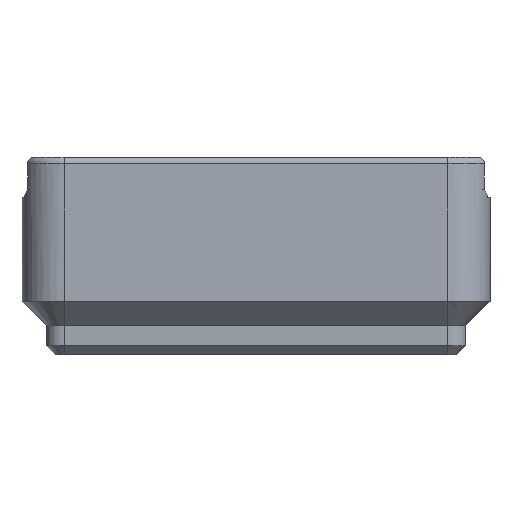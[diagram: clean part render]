
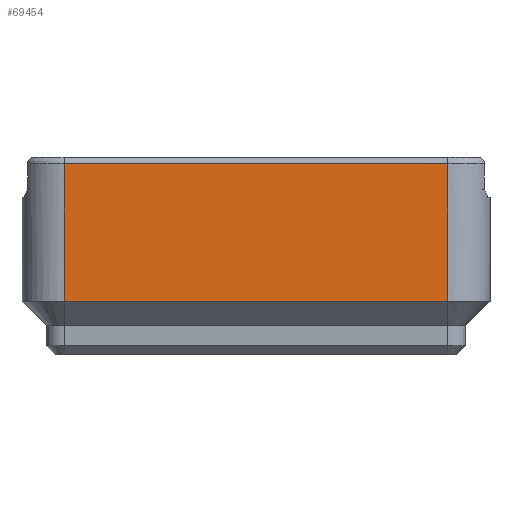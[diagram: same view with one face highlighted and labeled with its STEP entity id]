
A CAD part, left-side view. The second image highlights one B-rep face of the part: STEP entity #69454.
In plain terms, the highlighted planar face has unit normal (-1, 0, 0).
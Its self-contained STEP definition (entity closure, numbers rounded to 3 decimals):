
#1014 = CYLINDRICAL_SURFACE('',#1015,3.75);
#1015 = AXIS2_PLACEMENT_3D('',#1016,#1017,#1018);
#1016 = CARTESIAN_POINT('',(-38.,-17.,2.6));
#1017 = DIRECTION('',(0.,0.,-1.));
#1018 = DIRECTION('',(-1.,0.,0.));
#24637 = EDGE_CURVE('',#24638,#24640,#24642,.T.);
#24638 = VERTEX_POINT('',#24639);
#24639 = CARTESIAN_POINT('',(-41.75,-17.,4.75));
#24640 = VERTEX_POINT('',#24641);
#24641 = CARTESIAN_POINT('',(-41.75,-17.,16.951));
#24642 = SURFACE_CURVE('',#24643,(#24647,#24654),.PCURVE_S1.);
#24643 = LINE('',#24644,#24645);
#24644 = CARTESIAN_POINT('',(-41.75,-17.,4.75));
#24645 = VECTOR('',#24646,1.);
#24646 = DIRECTION('',(0.,0.,1.));
#24647 = PCURVE('',#1014,#24648);
#24648 = DEFINITIONAL_REPRESENTATION('',(#24649),#24653);
#24649 = LINE('',#24650,#24651);
#24650 = CARTESIAN_POINT('',(6.283,-2.15));
#24651 = VECTOR('',#24652,1.);
#24652 = DIRECTION('',(0.,-1.));
#24653 = ( GEOMETRIC_REPRESENTATION_CONTEXT(2) 
PARAMETRIC_REPRESENTATION_CONTEXT() REPRESENTATION_CONTEXT('2D SPACE',''
  ) );
#24654 = PCURVE('',#24655,#24660);
#24655 = PLANE('',#24656);
#24656 = AXIS2_PLACEMENT_3D('',#24657,#24658,#24659);
#24657 = CARTESIAN_POINT('',(-41.75,-17.,2.6));
#24658 = DIRECTION('',(-1.,0.,0.));
#24659 = DIRECTION('',(0.,1.,0.));
#24660 = DEFINITIONAL_REPRESENTATION('',(#24661),#24665);
#24661 = LINE('',#24662,#24663);
#24662 = CARTESIAN_POINT('',(0.,-2.15));
#24663 = VECTOR('',#24664,1.);
#24664 = DIRECTION('',(0.,-1.));
#24665 = ( GEOMETRIC_REPRESENTATION_CONTEXT(2) 
PARAMETRIC_REPRESENTATION_CONTEXT() REPRESENTATION_CONTEXT('2D SPACE',''
  ) );
#67327 = CYLINDRICAL_SURFACE('',#67328,3.75);
#67328 = AXIS2_PLACEMENT_3D('',#67329,#67330,#67331);
#67329 = CARTESIAN_POINT('',(-38.,17.,2.6));
#67330 = DIRECTION('',(0.,0.,-1.));
#67331 = DIRECTION('',(-1.,0.,0.));
#69341 = PLANE('',#69342);
#69342 = AXIS2_PLACEMENT_3D('',#69343,#69344,#69345);
#69343 = CARTESIAN_POINT('',(-40.675,-17.,3.675));
#69344 = DIRECTION('',(0.707,0.,0.707
    ));
#69345 = DIRECTION('',(0.,-1.,0.));
#69454 = ADVANCED_FACE('',(#69455),#24655,.T.);
#69455 = FACE_BOUND('',#69456,.T.);
#69456 = EDGE_LOOP('',(#69457,#69458,#69486,#69509));
#69457 = ORIENTED_EDGE('',*,*,#24637,.T.);
#69458 = ORIENTED_EDGE('',*,*,#69459,.F.);
#69459 = EDGE_CURVE('',#69460,#24640,#69462,.T.);
#69460 = VERTEX_POINT('',#69461);
#69461 = CARTESIAN_POINT('',(-41.75,17.,16.951));
#69462 = SURFACE_CURVE('',#69463,(#69467,#69474),.PCURVE_S1.);
#69463 = LINE('',#69464,#69465);
#69464 = CARTESIAN_POINT('',(-41.75,17.,16.951));
#69465 = VECTOR('',#69466,1.);
#69466 = DIRECTION('',(-0.,-1.,-0.));
#69467 = PCURVE('',#24655,#69468);
#69468 = DEFINITIONAL_REPRESENTATION('',(#69469),#69473);
#69469 = LINE('',#69470,#69471);
#69470 = CARTESIAN_POINT('',(34.,-14.351));
#69471 = VECTOR('',#69472,1.);
#69472 = DIRECTION('',(-1.,0.));
#69473 = ( GEOMETRIC_REPRESENTATION_CONTEXT(2) 
PARAMETRIC_REPRESENTATION_CONTEXT() REPRESENTATION_CONTEXT('2D SPACE',''
  ) );
#69474 = PCURVE('',#69475,#69480);
#69475 = CYLINDRICAL_SURFACE('',#69476,0.6);
#69476 = AXIS2_PLACEMENT_3D('',#69477,#69478,#69479);
#69477 = CARTESIAN_POINT('',(-41.15,17.,16.951));
#69478 = DIRECTION('',(-0.,-1.,-0.));
#69479 = DIRECTION('',(-1.,0.,0.));
#69480 = DEFINITIONAL_REPRESENTATION('',(#69481),#69485);
#69481 = LINE('',#69482,#69483);
#69482 = CARTESIAN_POINT('',(-0.,0.));
#69483 = VECTOR('',#69484,1.);
#69484 = DIRECTION('',(-0.,1.));
#69485 = ( GEOMETRIC_REPRESENTATION_CONTEXT(2) 
PARAMETRIC_REPRESENTATION_CONTEXT() REPRESENTATION_CONTEXT('2D SPACE',''
  ) );
#69486 = ORIENTED_EDGE('',*,*,#69487,.T.);
#69487 = EDGE_CURVE('',#69460,#69488,#69490,.T.);
#69488 = VERTEX_POINT('',#69489);
#69489 = CARTESIAN_POINT('',(-41.75,17.,4.75));
#69490 = SURFACE_CURVE('',#69491,(#69495,#69502),.PCURVE_S1.);
#69491 = LINE('',#69492,#69493);
#69492 = CARTESIAN_POINT('',(-41.75,17.,18.4));
#69493 = VECTOR('',#69494,1.);
#69494 = DIRECTION('',(0.,0.,-1.));
#69495 = PCURVE('',#24655,#69496);
#69496 = DEFINITIONAL_REPRESENTATION('',(#69497),#69501);
#69497 = LINE('',#69498,#69499);
#69498 = CARTESIAN_POINT('',(34.,-15.8));
#69499 = VECTOR('',#69500,1.);
#69500 = DIRECTION('',(0.,1.));
#69501 = ( GEOMETRIC_REPRESENTATION_CONTEXT(2) 
PARAMETRIC_REPRESENTATION_CONTEXT() REPRESENTATION_CONTEXT('2D SPACE',''
  ) );
#69502 = PCURVE('',#67327,#69503);
#69503 = DEFINITIONAL_REPRESENTATION('',(#69504),#69508);
#69504 = LINE('',#69505,#69506);
#69505 = CARTESIAN_POINT('',(0.,-15.8));
#69506 = VECTOR('',#69507,1.);
#69507 = DIRECTION('',(0.,1.));
#69508 = ( GEOMETRIC_REPRESENTATION_CONTEXT(2) 
PARAMETRIC_REPRESENTATION_CONTEXT() REPRESENTATION_CONTEXT('2D SPACE',''
  ) );
#69509 = ORIENTED_EDGE('',*,*,#69510,.F.);
#69510 = EDGE_CURVE('',#24638,#69488,#69511,.T.);
#69511 = SURFACE_CURVE('',#69512,(#69516,#69523),.PCURVE_S1.);
#69512 = LINE('',#69513,#69514);
#69513 = CARTESIAN_POINT('',(-41.75,-17.,4.75));
#69514 = VECTOR('',#69515,1.);
#69515 = DIRECTION('',(0.,1.,0.));
#69516 = PCURVE('',#24655,#69517);
#69517 = DEFINITIONAL_REPRESENTATION('',(#69518),#69522);
#69518 = LINE('',#69519,#69520);
#69519 = CARTESIAN_POINT('',(0.,-2.15));
#69520 = VECTOR('',#69521,1.);
#69521 = DIRECTION('',(1.,0.));
#69522 = ( GEOMETRIC_REPRESENTATION_CONTEXT(2) 
PARAMETRIC_REPRESENTATION_CONTEXT() REPRESENTATION_CONTEXT('2D SPACE',''
  ) );
#69523 = PCURVE('',#69341,#69524);
#69524 = DEFINITIONAL_REPRESENTATION('',(#69525),#69529);
#69525 = LINE('',#69526,#69527);
#69526 = CARTESIAN_POINT('',(-0.,-1.52));
#69527 = VECTOR('',#69528,1.);
#69528 = DIRECTION('',(-1.,0.));
#69529 = ( GEOMETRIC_REPRESENTATION_CONTEXT(2) 
PARAMETRIC_REPRESENTATION_CONTEXT() REPRESENTATION_CONTEXT('2D SPACE',''
  ) );
